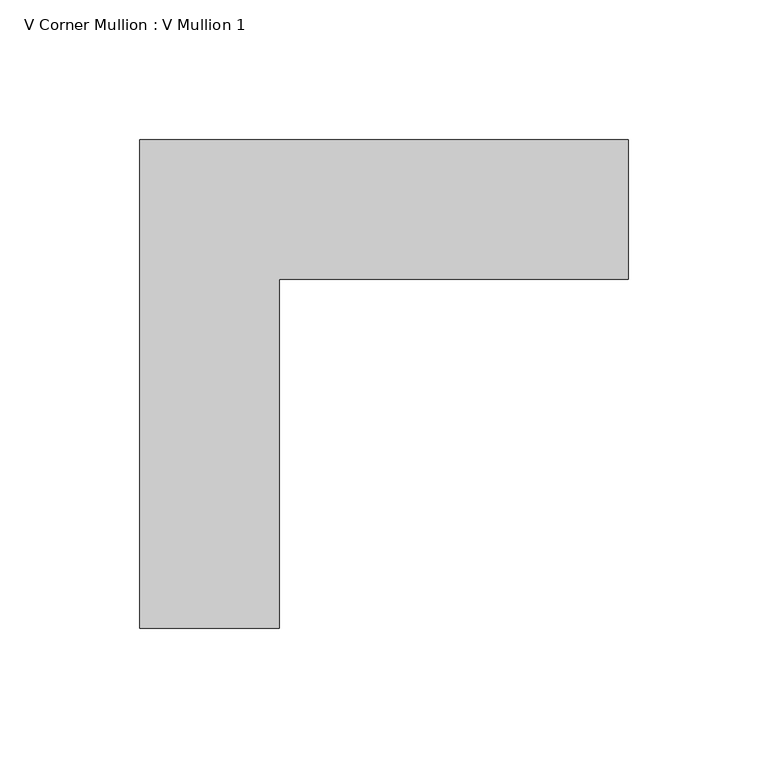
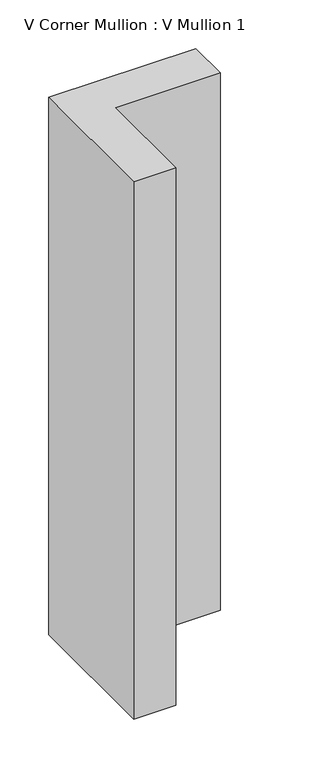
"""IFC4 building model written with IfcOpenShell, lengths in millimetres: member geometry, V Corner Mullion : V Mullion 1."""

from ifc_helpers import new_model, si_unit, frame, origin, place, context, project, spatial, polyline, outline, extrude, source, transform, mapped, element, save


def v_corner_mullion_v_mullion_1_f045c5c2(model_context):
    return source(origin(), model_context, "Body", "SweptSolid", [
        extrude(outline(polyline([(75.0, 50.0), (-50.0, 50.0), (-50.0, -75.0), (-100.0, -75.0), (-100.0, 100.0), (75.0, 100.0), (75.0, 50.0)])), frame((0.0, 0.0, -675.0), z_axis=(0.0, 0.0, 1.0), x_axis=(1.0, 0.0, 0.0)), (0.0, 0.0, 1.0), 675.0),
    ])


if __name__ == "__main__":
    model = new_model("IFC4")
    model_context = context("Model", 3, world=origin())
    ifc_project = project(units=[si_unit("LENGTHUNIT", "METRE", prefix="MILLI")], contexts=[model_context])
    site = spatial("IfcSite", under=ifc_project)
    building = spatial("IfcBuilding", under=site)
    placement = place(None, origin())
    v_corner_mullion_v_mullion_1_shape = v_corner_mullion_v_mullion_1_f045c5c2(model_context)
    element("IfcMember", 1, ObjectType="V Corner Mullion : V Mullion 1", at=placement, inside=building, context=model_context, shape_type="MappedRepresentation", body=[
        mapped(v_corner_mullion_v_mullion_1_shape, transform((0.0, 0.0, 0.0), x_axis=(1.0, 0.0, 0.0), y_axis=(0.0, 1.0, 0.0), z_axis=(0.0, 0.0, 1.0))),
    ])
    save(model, "model.ifc")
